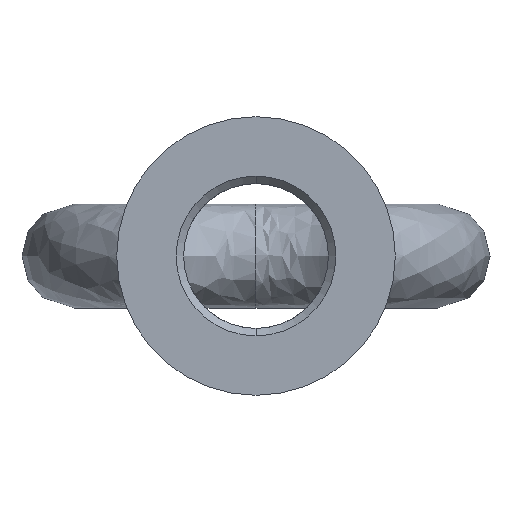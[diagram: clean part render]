
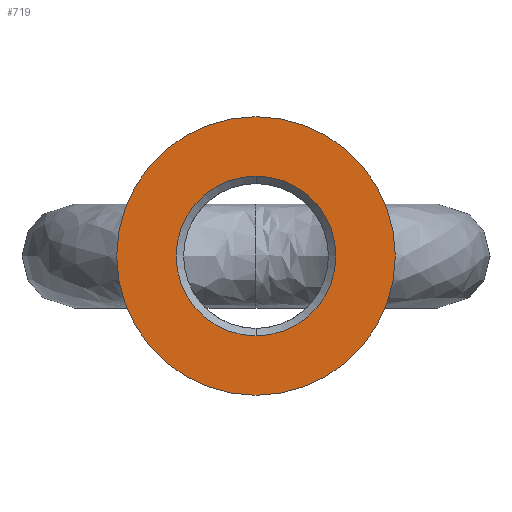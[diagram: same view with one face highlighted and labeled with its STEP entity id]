
A CAD part, front view. The second image highlights one B-rep face of the part: STEP entity #719.
In plain terms, the highlighted planar face has unit normal (0, -1, 0).
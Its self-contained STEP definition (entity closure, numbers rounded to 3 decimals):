
#5 = CARTESIAN_POINT ( 'NONE',  ( 0., 0., 0. ) ) ;
#53 = ORIENTED_EDGE ( 'NONE', *, *, #849, .T. ) ;
#97 = EDGE_LOOP ( 'NONE', ( #2879, #1573 ) ) ;
#118 = EDGE_CURVE ( 'NONE', #1418, #2361, #870, .T. ) ;
#158 = DIRECTION ( 'NONE',  ( 0., 1., 0. ) ) ;
#407 = CARTESIAN_POINT ( 'NONE',  ( 0., 0., 0. ) ) ;
#439 = DIRECTION ( 'NONE',  ( 0., 0., 1. ) ) ;
#451 = AXIS2_PLACEMENT_3D ( 'NONE', #5, #3033, #990 ) ;
#468 = DIRECTION ( 'NONE',  ( 0., 1., 0. ) ) ;
#505 = FACE_OUTER_BOUND ( 'NONE', #97, .T. ) ;
#532 = DIRECTION ( 'NONE',  ( 0., -1., 0. ) ) ;
#692 = DIRECTION ( 'NONE',  ( 0., 0., -1. ) ) ;
#719 = ADVANCED_FACE ( 'NONE', ( #2791, #505 ), #2817, .T. ) ;
#849 = EDGE_CURVE ( 'NONE', #1299, #3143, #2418, .T. ) ;
#870 = CIRCLE ( 'NONE', #2835, 37.5 ) ;
#917 = DIRECTION ( 'NONE',  ( 0., 0., -1. ) ) ;
#990 = DIRECTION ( 'NONE',  ( 0., 0., 1. ) ) ;
#1090 = EDGE_CURVE ( 'NONE', #3143, #1299, #1401, .T. ) ;
#1196 = EDGE_CURVE ( 'NONE', #2361, #1418, #3268, .T. ) ;
#1202 = DIRECTION ( 'NONE',  ( 0., 1., 0. ) ) ;
#1299 = VERTEX_POINT ( 'NONE', #2022 ) ;
#1399 = AXIS2_PLACEMENT_3D ( 'NONE', #2173, #1202, #692 ) ;
#1401 = CIRCLE ( 'NONE', #2838, 21.5 ) ;
#1418 = VERTEX_POINT ( 'NONE', #2863 ) ;
#1450 = CARTESIAN_POINT ( 'NONE',  ( 0., 0., -21.5 ) ) ;
#1530 = CARTESIAN_POINT ( 'NONE',  ( 0., 0., 0. ) ) ;
#1573 = ORIENTED_EDGE ( 'NONE', *, *, #118, .F. ) ;
#2022 = CARTESIAN_POINT ( 'NONE',  ( 0., 0., 21.5 ) ) ;
#2147 = AXIS2_PLACEMENT_3D ( 'NONE', #1530, #532, #2552 ) ;
#2173 = CARTESIAN_POINT ( 'NONE',  ( 0., 0., 0. ) ) ;
#2226 = EDGE_LOOP ( 'NONE', ( #2910, #53 ) ) ;
#2361 = VERTEX_POINT ( 'NONE', #2631 ) ;
#2418 = CIRCLE ( 'NONE', #1399, 21.5 ) ;
#2552 = DIRECTION ( 'NONE',  ( 0., 0., -1. ) ) ;
#2631 = CARTESIAN_POINT ( 'NONE',  ( 0., 0., -37.5 ) ) ;
#2791 = FACE_BOUND ( 'NONE', #2226, .T. ) ;
#2817 = PLANE ( 'NONE',  #2147 ) ;
#2835 = AXIS2_PLACEMENT_3D ( 'NONE', #407, #158, #439 ) ;
#2838 = AXIS2_PLACEMENT_3D ( 'NONE', #3252, #468, #917 ) ;
#2863 = CARTESIAN_POINT ( 'NONE',  ( 0., 0., 37.5 ) ) ;
#2879 = ORIENTED_EDGE ( 'NONE', *, *, #1196, .F. ) ;
#2910 = ORIENTED_EDGE ( 'NONE', *, *, #1090, .T. ) ;
#3033 = DIRECTION ( 'NONE',  ( 0., 1., 0. ) ) ;
#3143 = VERTEX_POINT ( 'NONE', #1450 ) ;
#3252 = CARTESIAN_POINT ( 'NONE',  ( 0., 0., 0. ) ) ;
#3268 = CIRCLE ( 'NONE', #451, 37.5 ) ;
